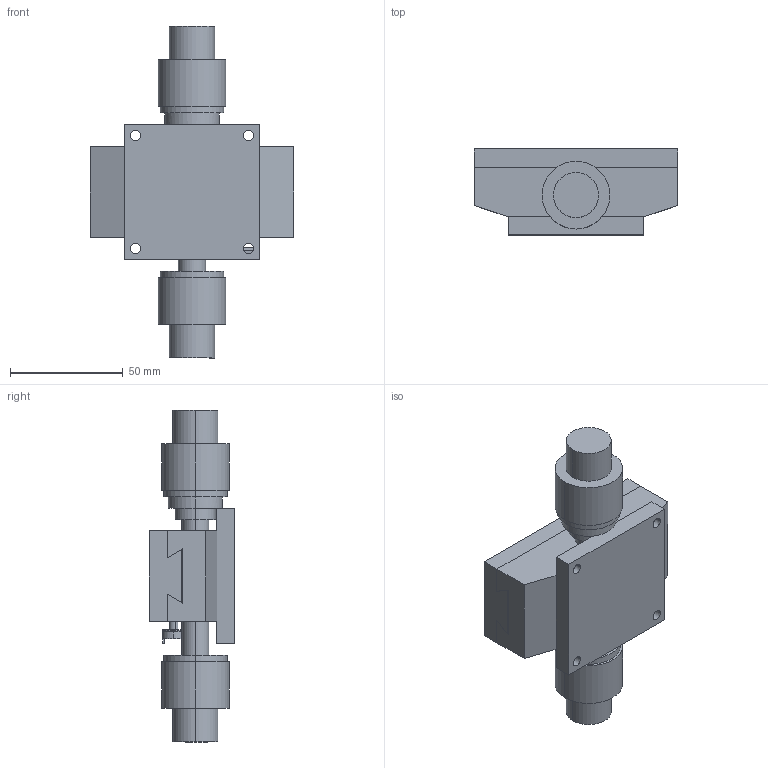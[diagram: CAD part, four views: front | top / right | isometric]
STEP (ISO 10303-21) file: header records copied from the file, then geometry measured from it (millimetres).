
FILE_DESCRIPTION (( 'STEP AP203' ), '1' );
FILE_NAME ('LS-912WS.STEP', '2008-03-03T08:23:50', ( '' ), ( '' ), 'SwSTEP 2.0', 'SolidWorks 2007', '' );
FILE_SCHEMA (( 'CONFIG_CONTROL_DESIGN' ));
Length unit declared in the file: millimetre
Products named in the file (3): LS-912WS; LS-912WS-1; LS-912WS-2
Assembly tree (2 placements, depth 2):
  LS-912WS
    LS-912WS-2
    LS-912WS-1
Bounding box: 90 x 38 x 147 mm (x, y, z)
Volume: 174760 mm3; surface area: 43573.4 mm2
Topology: 2 solids, 2 shells, 137 faces, 330 edges, 217 vertices
Faces by surface type: cylinder 69, plane 68
Entity records: 4394 total; most frequent: DIRECTION 753, CARTESIAN_POINT 695, ORIENTED_EDGE 660, EDGE_CURVE 330, AXIS2_PLACEMENT_3D 283, VERTEX_POINT 217, VECTOR 187, LINE 187
